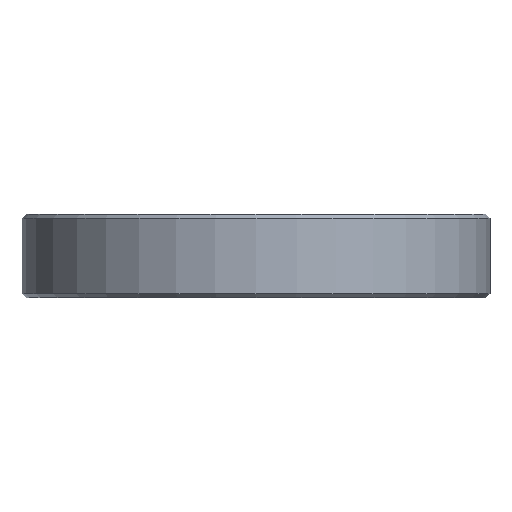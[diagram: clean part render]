
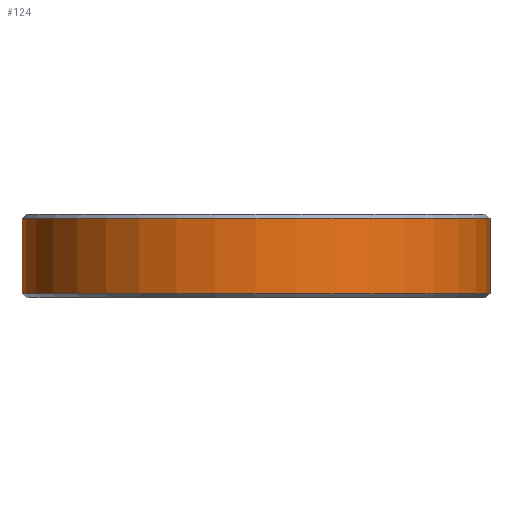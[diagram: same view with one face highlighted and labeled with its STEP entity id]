
A CAD part, front view. The second image highlights one B-rep face of the part: STEP entity #124.
In plain terms, the highlighted cylindrical face has radius 28 mm (diameter 56 mm), a full revolution.
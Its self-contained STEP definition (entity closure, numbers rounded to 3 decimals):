
#19=CYLINDRICAL_SURFACE('',#155,28.);
#22=FACE_OUTER_BOUND('',#30,.T.);
#30=EDGE_LOOP('',(#92,#93,#94,#95,#96,#97));
#40=LINE('',#227,#46);
#46=VECTOR('',#186,28.);
#51=CIRCLE('',#152,28.);
#52=CIRCLE('',#153,28.);
#54=CIRCLE('',#156,28.);
#55=CIRCLE('',#157,28.);
#61=VERTEX_POINT('',#215);
#62=VERTEX_POINT('',#216);
#64=VERTEX_POINT('',#223);
#65=VERTEX_POINT('',#224);
#71=EDGE_CURVE('',#61,#62,#51,.T.);
#72=EDGE_CURVE('',#62,#61,#52,.T.);
#75=EDGE_CURVE('',#64,#65,#54,.T.);
#76=EDGE_CURVE('',#65,#64,#55,.T.);
#77=EDGE_CURVE('',#65,#62,#40,.T.);
#92=ORIENTED_EDGE('',*,*,#75,.F.);
#93=ORIENTED_EDGE('',*,*,#76,.F.);
#94=ORIENTED_EDGE('',*,*,#77,.T.);
#95=ORIENTED_EDGE('',*,*,#71,.F.);
#96=ORIENTED_EDGE('',*,*,#72,.F.);
#97=ORIENTED_EDGE('',*,*,#77,.F.);
#124=ADVANCED_FACE('',(#22),#19,.T.);
#152=AXIS2_PLACEMENT_3D('',#217,#173,#174);
#153=AXIS2_PLACEMENT_3D('',#218,#175,#176);
#155=AXIS2_PLACEMENT_3D('',#222,#180,#181);
#156=AXIS2_PLACEMENT_3D('',#225,#182,#183);
#157=AXIS2_PLACEMENT_3D('',#226,#184,#185);
#173=DIRECTION('center_axis',(0.,0.,-1.));
#174=DIRECTION('ref_axis',(-1.,0.,0.));
#175=DIRECTION('center_axis',(0.,0.,-1.));
#176=DIRECTION('ref_axis',(-1.,0.,0.));
#180=DIRECTION('center_axis',(0.,0.,1.));
#181=DIRECTION('ref_axis',(1.,0.,0.));
#182=DIRECTION('center_axis',(0.,0.,1.));
#183=DIRECTION('ref_axis',(-1.,0.,0.));
#184=DIRECTION('center_axis',(0.,0.,1.));
#185=DIRECTION('ref_axis',(-1.,0.,0.));
#186=DIRECTION('',(0.,0.,-1.));
#215=CARTESIAN_POINT('',(28.,0.,0.5));
#216=CARTESIAN_POINT('',(-28.,0.,0.5));
#217=CARTESIAN_POINT('Origin',(0.,0.,0.5));
#218=CARTESIAN_POINT('Origin',(0.,0.,0.5));
#222=CARTESIAN_POINT('Origin',(0.,0.,0.));
#223=CARTESIAN_POINT('',(28.,0.,9.5));
#224=CARTESIAN_POINT('',(-28.,0.,9.5));
#225=CARTESIAN_POINT('Origin',(0.,0.,9.5));
#226=CARTESIAN_POINT('Origin',(0.,0.,9.5));
#227=CARTESIAN_POINT('',(-28.,0.,0.));
